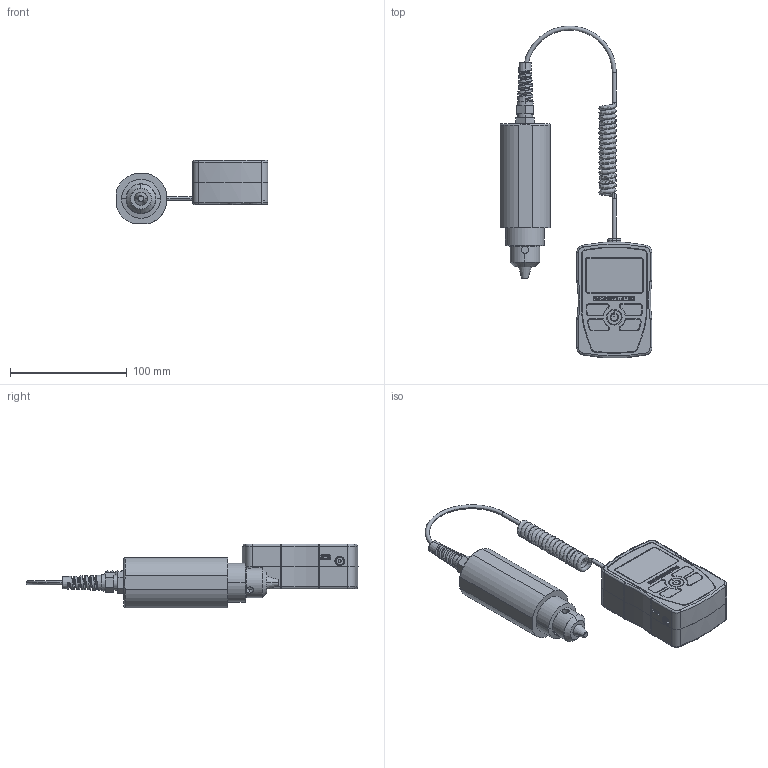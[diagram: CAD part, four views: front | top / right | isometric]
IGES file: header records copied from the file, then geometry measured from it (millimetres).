
Global section: file name: No Iges File Name specified; native system: Autodesk Inventor 2010; preprocessor: AutoDesk Inventor Iges Exporter R2010; author: mlampen; date: 20170601.102850; units: inch
Bounding box: 129.78 x 283.86 x 54.48 mm (x, y, z)
Volume: 399931.9 mm3; surface area: 60045.7 mm2
Topology: 2 solids, 2 shells, 821 faces, 2020 edges, 1272 vertices
Faces by surface type: plane 350, revolution 167, bspline 117, cylinder 106, cone 41, torus 40
